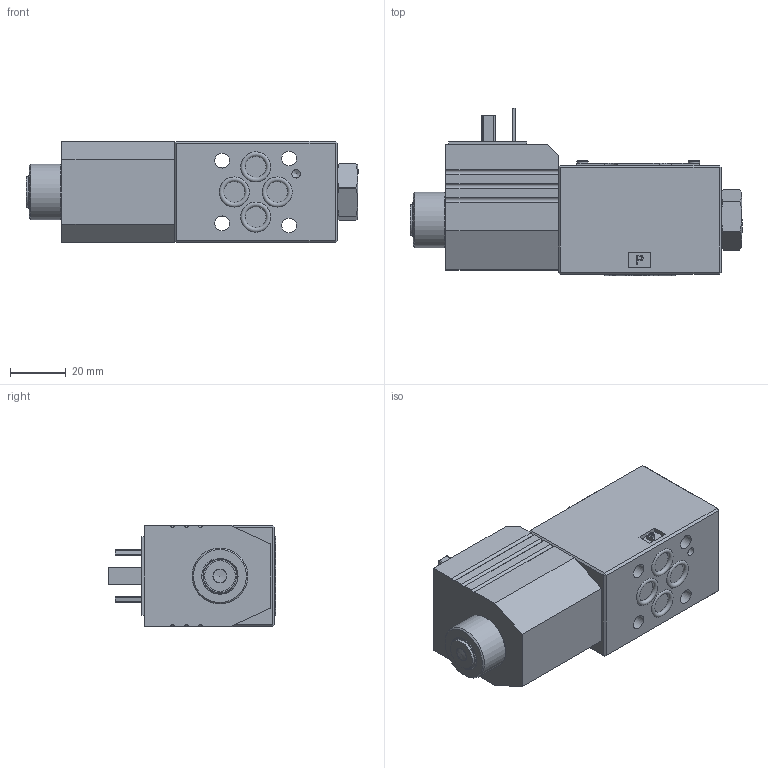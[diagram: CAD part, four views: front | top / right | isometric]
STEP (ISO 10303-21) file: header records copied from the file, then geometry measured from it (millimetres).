
FILE_DESCRIPTION(/* description */ (''),/* implementation_level */ '2;1');
FILE_NAME(/* name */ '4WE4-2XJ电磁换向阀（二位阀电磁铁在A端）.prt.stp',/* time_stamp */ '2022-03-30T19:30:05+08:00',/* author */ (''),/* organization */ (''),/* preprocessor_version */ 'ST-DEVELOPER v16.7',/* originating_system */ 'SIEMENS PLM Software NX 12.0',/* authorisation */ '');
FILE_SCHEMA (('AUTOMOTIVE_DESIGN { 1 0 10303 214 3 1 1 1 }'));
Length unit declared in the file: millimetre
Products named in the file (1): 4WE4-2XJ电磁换向阀（二位阀电磁铁在A
端）
Bounding box: 119.1 x 59.98 x 36.5 mm (x, y, z)
Volume: 145235.6 mm3; surface area: 39553.2 mm2
Topology: 16 solids, 21 shells, 430 faces, 1027 edges, 665 vertices
Faces by surface type: plane 204, cylinder 145, extrusion 28, torus 26, cone 16, bspline 10, sphere 1
Full cylindrical faces by diameter (mm): 1.5 x2, 1.8 x6, 2.5 x14, 3 x1, 3.5 x1, 4 x2, 5 x2, 5.3 x4, 9 x5, 10.8 x4, 11 x2, 13 x2, 14 x3, 14.5 x1, 16 x1, 16.2 x1, 17.8 x1, 20 x1, 27 x1, 29.5 x1, 33.5 x1
Entity records: 19084 total; most frequent: CARTESIAN_POINT 8763, ORIENTED_EDGE 1758, DIRECTION 1751, EDGE_CURVE 879, AXIS2_PLACEMENT_3D 621, VERTEX_POINT 614, EDGE_LOOP 537, VECTOR 509
